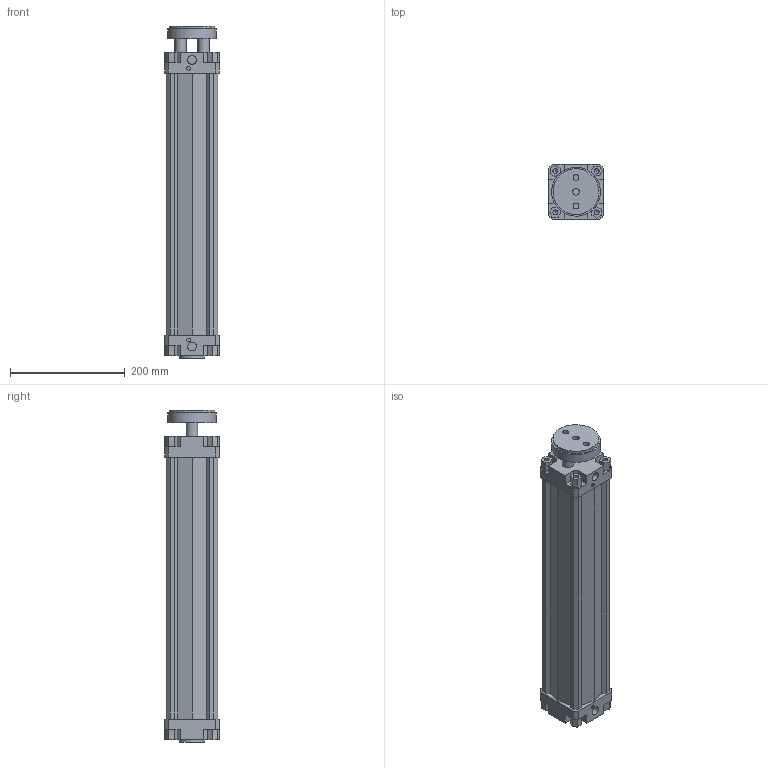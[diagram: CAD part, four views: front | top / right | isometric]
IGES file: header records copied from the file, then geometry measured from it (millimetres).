
Global section: file name: 132#_080_0400_01; native system: Autodesk Inventor 2014; preprocessor: unknown; author: A. Manieri; date: 20161006.162458; units: millimetre
Bounding box: 95 x 95 x 578 mm (x, y, z)
Volume: 2092880.9 mm3; surface area: 455980.8 mm2
Topology: 2 solids, 2 shells, 180 faces, 491 edges, 335 vertices
Faces by surface type: bspline 180
